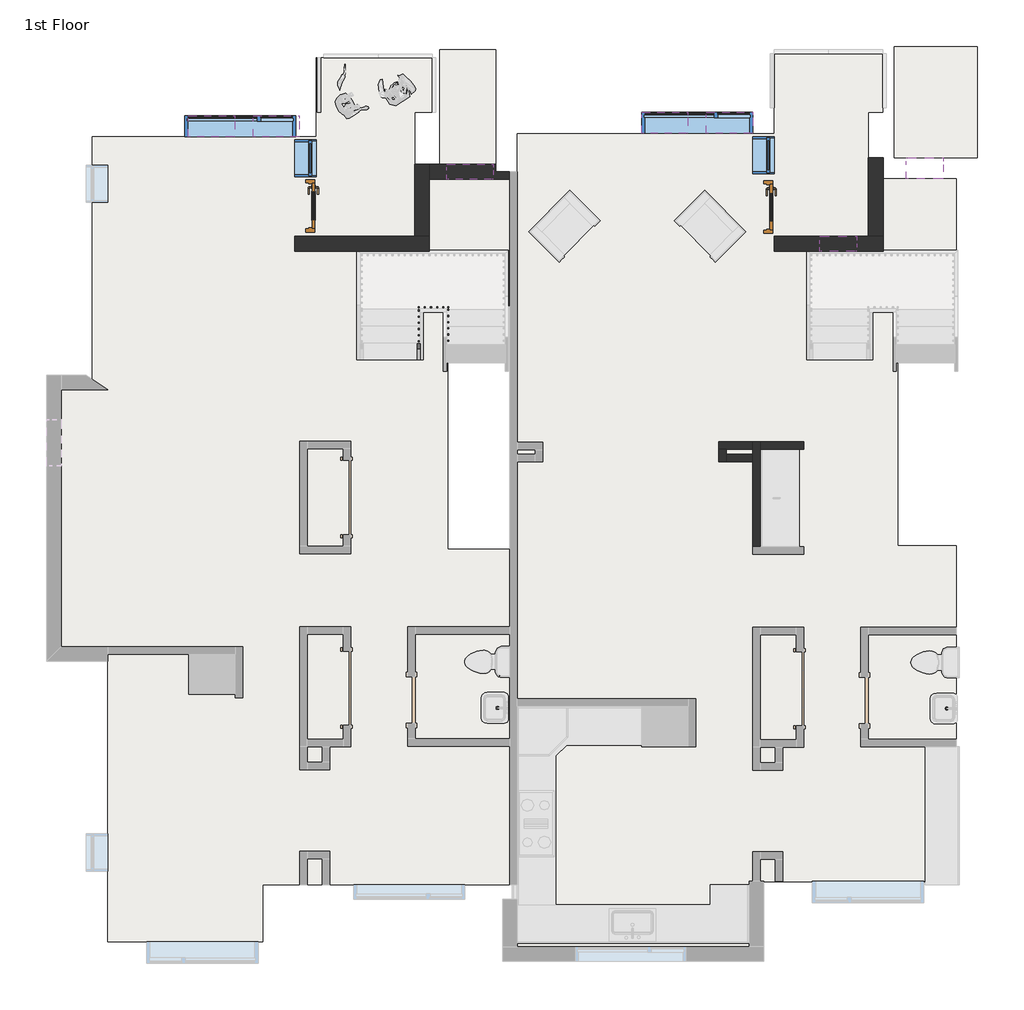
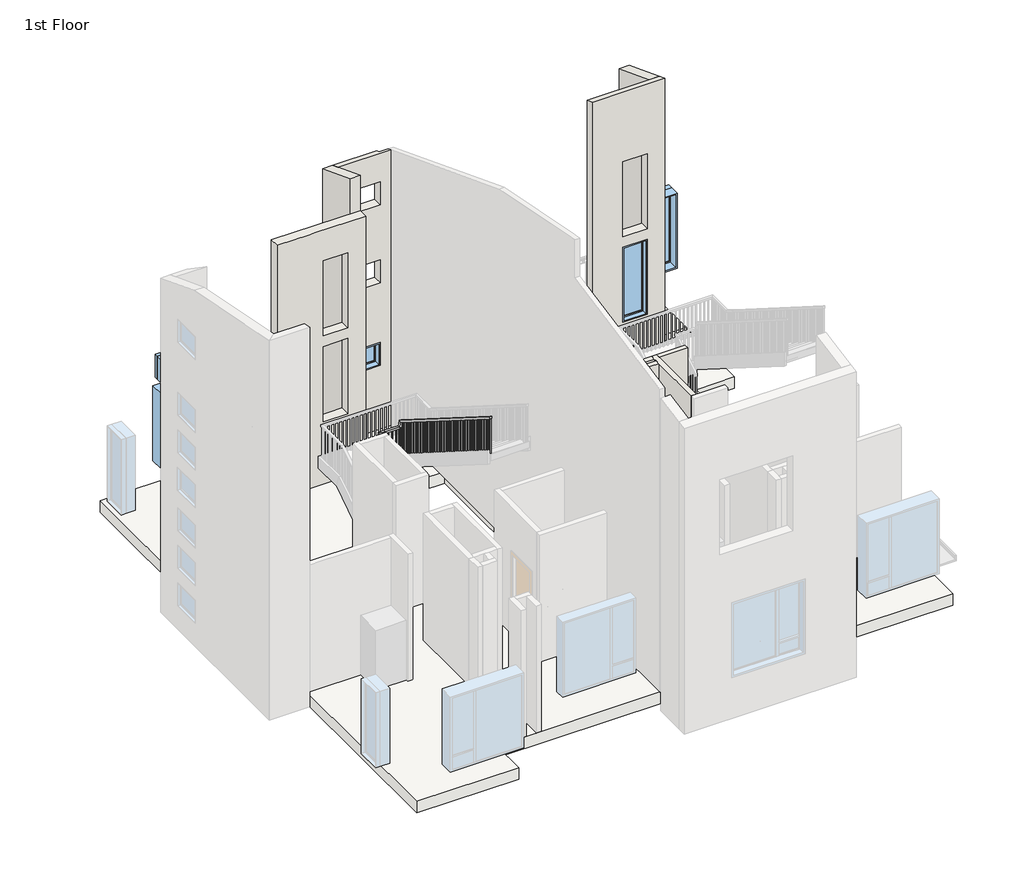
# One storey, part 2 of 6: 11 windows, 10 walls, 2 doors, 2 roofs, 1 railing, 1 slab.
"""IFC4 building model written with IfcOpenShell, lengths in millimetres."""

from ifc_helpers import new_model, si_unit, frame, origin, origin_with_axes, place, context, project, spatial, polyline, outline, extrude, faceted_brep, transform, mapped, element, save
from components import door_00adfaa7, window_8bf192ed, window_b6feeaa8, window_2f0d178e, window_b1c1038b, window_8c170f25, window_03925a3a, window_7b40078c

model = new_model("IFC4")

# Units and contexts
model_context = context("Model", 3, world=origin())
ifc_project = project(units=[si_unit("LENGTHUNIT", "METRE", prefix="MILLI")], contexts=[model_context])

# Site, building, storey
site = spatial("IfcSite", under=ifc_project)
building = spatial("IfcBuilding", under=site)
storey = spatial("IfcBuildingStorey", under=building, Name="1st Floor", Elevation=0.0)

# Doors
placement = place(None, origin())
door_shape = door_00adfaa7(model_context)
element("IfcDoor", 1, ObjectType="Door-Passage-Single-Full_Lite : 30\" x 84\"", at=placement, inside=storey, context=model_context, shape_type="MappedRepresentation", body=[
    mapped(door_shape, transform((2467.5053219, 5235.7563085, 0.0), x_axis=(0.0, -1.0, 0.0), y_axis=(1.0, 0.0, 0.0), z_axis=(0.0, 0.0, 1.0))),
])
element("IfcDoor", 2, ObjectType="Door-Passage-Single-Full_Lite : 30\" x 84\"", at=placement, inside=storey, context=model_context, shape_type="MappedRepresentation", body=[
    mapped(door_shape, transform((-5065.5821781, 5257.9813085, 0.0), x_axis=(0.0, -1.0, 0.0), y_axis=(1.0, 0.0, 0.0), z_axis=(0.0, 0.0, 1.0))),
])

# Railing
element("IfcRailing", 3, ObjectType="Handrail - Rectangular", at=placement, inside=storey, context=model_context, shape_type="SolidModel", body=[
    faceted_brep([(-3224.3663287, 2721.6563085, 1090.8631579), (-3224.3663287, 2721.6563085, 1030.7795781), (-3173.5663287, 2721.6563085, 1030.7795781), (-3173.5663287, 2721.6563085, 1090.8631579), (-3224.3663287, 3483.6563085, 1572.1263158), (-3224.3663287, 3534.4563085, 1544.1269465), (-3173.5663287, 3534.4563085, 1544.1269465), (-3173.5663287, 3483.6563085, 1572.1263158), (-3224.3663287, 3483.6563085, 1620.2526316), (-3224.3663287, 3534.4563085, 1569.4526316), (-3173.5663287, 3534.4563085, 1569.4526316), (-3173.5663287, 3483.6563085, 1620.2526316), (-3224.3663287, 3610.6563085, 1620.2526316), (-3224.3663287, 3610.6563085, 1569.4526316), (-3173.5663287, 3559.8563085, 1569.4526316), (-3173.5663287, 3559.8563085, 1620.2526316), (-3097.3663287, 3610.6563085, 1620.2526316), (-3097.3663287, 3610.6563085, 1569.4526316), (-3097.3663287, 3559.8563085, 1569.4526316), (-3097.3663287, 3559.8563085, 1620.2526316), (-2688.9571781, 3610.6563085, 1620.2526316), (-2688.9571781, 3559.8563085, 1620.2526316), (-2688.9571781, 3559.8563085, 1569.4526316), (-2688.9571781, 3610.6563085, 1569.4526316)], [[[0, 1, 2, 3]], [[1, 0, 4, 5]], [[2, 1, 5, 6]], [[3, 2, 6, 7]], [[0, 3, 7, 4]], [[5, 4, 8, 9]], [[6, 5, 9, 10]], [[7, 6, 10, 11]], [[4, 7, 11, 8]], [[9, 8, 12, 13]], [[10, 9, 13, 14]], [[11, 10, 14, 15]], [[8, 11, 15, 12]], [[13, 12, 16, 17]], [[14, 13, 17, 18]], [[15, 14, 18, 19]], [[12, 15, 19, 16]], [[20, 21, 22, 23]], [[17, 16, 20, 23]], [[18, 17, 23, 22]], [[19, 18, 22, 21]], [[16, 19, 21, 20]]]),
    faceted_brep([(-2688.9571781, 3585.2563085, 1620.2526316), (-2688.9571781, 3535.6297104, 1609.3971833), (-2739.7571781, 3535.6297104, 1609.3971833), (-2739.7571781, 3585.2563085, 1620.2526316), (-2688.9571781, 3546.6563085, 1796.7157895), (-2688.9571781, 3501.5690485, 1765.1083739), (-2739.7571781, 3501.5690485, 1765.1083739), (-2739.7571781, 3546.6563085, 1796.7157895), (-2688.9571781, -364.9436915, 4267.2), (-2739.7571781, -364.9436915, 4267.2), (-2739.7571781, -364.9436915, 4207.1164202), (-2688.9571781, -364.9436915, 4207.1164202)], [[[0, 1, 2, 3]], [[1, 0, 4, 5]], [[2, 1, 5, 6]], [[3, 2, 6, 7]], [[0, 3, 7, 4]], [[8, 9, 10, 11]], [[5, 4, 8, 11]], [[6, 5, 11, 10]], [[7, 6, 10, 9]], [[4, 7, 9, 8]]]),
    extrude(outline(polyline([(-323.6686915, 4181.0479991), (-304.6186915, 4169.0164202), (-304.6186915, 3176.3368421), (-323.6686915, 3176.3368421), (-323.6686915, 4181.0479991)])), frame((-2723.8821781, 0.0, 0.0), z_axis=(1.0, 0.0, 0.0), x_axis=(0.0, 1.0, 0.0)), (0.0, 0.0, 1.0), 19.05),
    extrude(outline(polyline([(-222.0686915, 4116.8795781), (-203.0186915, 4104.8479991), (-203.0186915, 3176.3368421), (-222.0686915, 3176.3368421), (-222.0686915, 4116.8795781)])), frame((-2723.8821781, 0.0, 0.0), z_axis=(1.0, 0.0, 0.0), x_axis=(0.0, 1.0, 0.0)), (0.0, 0.0, 1.0), 19.05),
    extrude(outline(polyline([(-120.4686915, 4052.711157), (-101.4186915, 4040.6795781), (-101.4186915, 3176.3368421), (-120.4686915, 3176.3368421), (-120.4686915, 4052.711157)])), frame((-2723.8821781, 0.0, 0.0), z_axis=(1.0, 0.0, 0.0), x_axis=(0.0, 1.0, 0.0)), (0.0, 0.0, 1.0), 19.05),
    extrude(outline(polyline([(-18.8686915, 3988.542736), (0.1813085, 3976.511157), (0.1813085, 2999.8736842), (-18.8686915, 2999.8736842), (-18.8686915, 3988.542736)])), frame((-2723.8821781, 0.0, 0.0), z_axis=(1.0, 0.0, 0.0), x_axis=(0.0, 1.0, 0.0)), (0.0, 0.0, 1.0), 19.05),
    extrude(outline(polyline([(82.7313085, 3924.3743149), (101.7813085, 3912.342736), (101.7813085, 2999.8736842), (82.7313085, 2999.8736842), (82.7313085, 3924.3743149)])), frame((-2723.8821781, 0.0, 0.0), z_axis=(1.0, 0.0, 0.0), x_axis=(0.0, 1.0, 0.0)), (0.0, 0.0, 1.0), 19.05),
    extrude(outline(polyline([(184.3313085, 3860.2058939), (203.3813085, 3848.1743149), (203.3813085, 2999.8736842), (184.3313085, 2999.8736842), (184.3313085, 3860.2058939)])), frame((-2723.8821781, 0.0, 0.0), z_axis=(1.0, 0.0, 0.0), x_axis=(0.0, 1.0, 0.0)), (0.0, 0.0, 1.0), 19.05),
    extrude(outline(polyline([(285.9313085, 3796.0374728), (304.9813085, 3784.0058939), (304.9813085, 2823.4105263), (285.9313085, 2823.4105263), (285.9313085, 3796.0374728)])), frame((-2723.8821781, 0.0, 0.0), z_axis=(1.0, 0.0, 0.0), x_axis=(0.0, 1.0, 0.0)), (0.0, 0.0, 1.0), 19.05),
    extrude(outline(polyline([(387.5313085, 3731.8690517), (406.5813085, 3719.8374728), (406.5813085, 2823.4105263), (387.5313085, 2823.4105263), (387.5313085, 3731.8690517)])), frame((-2723.8821781, 0.0, 0.0), z_axis=(1.0, 0.0, 0.0), x_axis=(0.0, 1.0, 0.0)), (0.0, 0.0, 1.0), 19.05),
    extrude(outline(polyline([(489.1313085, 3667.7006307), (508.1813085, 3655.6690517), (508.1813085, 2646.9473684), (489.1313085, 2646.9473684), (489.1313085, 3667.7006307)])), frame((-2723.8821781, 0.0, 0.0), z_axis=(1.0, 0.0, 0.0), x_axis=(0.0, 1.0, 0.0)), (0.0, 0.0, 1.0), 19.05),
    extrude(outline(polyline([(590.7313085, 3603.5322096), (609.7813085, 3591.5006307), (609.7813085, 2646.9473684), (590.7313085, 2646.9473684), (590.7313085, 3603.5322096)])), frame((-2723.8821781, 0.0, 0.0), z_axis=(1.0, 0.0, 0.0), x_axis=(0.0, 1.0, 0.0)), (0.0, 0.0, 1.0), 19.05),
    extrude(outline(polyline([(692.3313085, 3539.3637886), (711.3813085, 3527.3322096), (711.3813085, 2646.9473684), (692.3313085, 2646.9473684), (692.3313085, 3539.3637886)])), frame((-2723.8821781, 0.0, 0.0), z_axis=(1.0, 0.0, 0.0), x_axis=(0.0, 1.0, 0.0)), (0.0, 0.0, 1.0), 19.05),
    extrude(outline(polyline([(793.9313085, 3475.1953675), (812.9813085, 3463.1637886), (812.9813085, 2470.4842105), (793.9313085, 2470.4842105), (793.9313085, 3475.1953675)])), frame((-2723.8821781, 0.0, 0.0), z_axis=(1.0, 0.0, 0.0), x_axis=(0.0, 1.0, 0.0)), (0.0, 0.0, 1.0), 19.05),
    extrude(outline(polyline([(895.5313085, 3411.0269465), (914.5813085, 3398.9953675), (914.5813085, 2470.4842105), (895.5313085, 2470.4842105), (895.5313085, 3411.0269465)])), frame((-2723.8821781, 0.0, 0.0), z_axis=(1.0, 0.0, 0.0), x_axis=(0.0, 1.0, 0.0)), (0.0, 0.0, 1.0), 19.05),
    extrude(outline(polyline([(997.1313085, 3346.8585254), (1016.1813085, 3334.8269465), (1016.1813085, 2470.4842105), (997.1313085, 2470.4842105), (997.1313085, 3346.8585254)])), frame((-2723.8821781, 0.0, 0.0), z_axis=(1.0, 0.0, 0.0), x_axis=(0.0, 1.0, 0.0)), (0.0, 0.0, 1.0), 19.05),
    extrude(outline(polyline([(1098.7313085, 3282.6901044), (1117.7813085, 3270.6585254), (1117.7813085, 2294.0210526), (1098.7313085, 2294.0210526), (1098.7313085, 3282.6901044)])), frame((-2723.8821781, 0.0, 0.0), z_axis=(1.0, 0.0, 0.0), x_axis=(0.0, 1.0, 0.0)), (0.0, 0.0, 1.0), 19.05),
    extrude(outline(polyline([(1200.3313085, 3218.5216833), (1219.3813085, 3206.4901044), (1219.3813085, 2294.0210526), (1200.3313085, 2294.0210526), (1200.3313085, 3218.5216833)])), frame((-2723.8821781, 0.0, 0.0), z_axis=(1.0, 0.0, 0.0), x_axis=(0.0, 1.0, 0.0)), (0.0, 0.0, 1.0), 19.05),
    extrude(outline(polyline([(1301.9313085, 3154.3532623), (1320.9813085, 3142.3216833), (1320.9813085, 2294.0210526), (1301.9313085, 2294.0210526), (1301.9313085, 3154.3532623)])), frame((-2723.8821781, 0.0, 0.0), z_axis=(1.0, 0.0, 0.0), x_axis=(0.0, 1.0, 0.0)), (0.0, 0.0, 1.0), 19.05),
    extrude(outline(polyline([(1403.5313085, 3090.1848412), (1422.5813085, 3078.1532623), (1422.5813085, 2117.5578947), (1403.5313085, 2117.5578947), (1403.5313085, 3090.1848412)])), frame((-2723.8821781, 0.0, 0.0), z_axis=(1.0, 0.0, 0.0), x_axis=(0.0, 1.0, 0.0)), (0.0, 0.0, 1.0), 19.05),
    extrude(outline(polyline([(1505.1313085, 3026.0164202), (1524.1813085, 3013.9848412), (1524.1813085, 2117.5578947), (1505.1313085, 2117.5578947), (1505.1313085, 3026.0164202)])), frame((-2723.8821781, 0.0, 0.0), z_axis=(1.0, 0.0, 0.0), x_axis=(0.0, 1.0, 0.0)), (0.0, 0.0, 1.0), 19.05),
    extrude(outline(polyline([(1606.7313085, 2961.8479991), (1625.7813085, 2949.8164202), (1625.7813085, 1941.0947368), (1606.7313085, 1941.0947368), (1606.7313085, 2961.8479991)])), frame((-2723.8821781, 0.0, 0.0), z_axis=(1.0, 0.0, 0.0), x_axis=(0.0, 1.0, 0.0)), (0.0, 0.0, 1.0), 19.05),
    extrude(outline(polyline([(1708.3313085, 2897.6795781), (1727.3813085, 2885.6479991), (1727.3813085, 1941.0947368), (1708.3313085, 1941.0947368), (1708.3313085, 2897.6795781)])), frame((-2723.8821781, 0.0, 0.0), z_axis=(1.0, 0.0, 0.0), x_axis=(0.0, 1.0, 0.0)), (0.0, 0.0, 1.0), 19.05),
    extrude(outline(polyline([(1809.9313085, 2833.511157), (1828.9813085, 2821.4795781), (1828.9813085, 1941.0947368), (1809.9313085, 1941.0947368), (1809.9313085, 2833.511157)])), frame((-2723.8821781, 0.0, 0.0), z_axis=(1.0, 0.0, 0.0), x_axis=(0.0, 1.0, 0.0)), (0.0, 0.0, 1.0), 19.05),
    extrude(outline(polyline([(1911.5313085, 2769.342736), (1930.5813085, 2757.311157), (1930.5813085, 1764.6315789), (1911.5313085, 1764.6315789), (1911.5313085, 2769.342736)])), frame((-2723.8821781, 0.0, 0.0), z_axis=(1.0, 0.0, 0.0), x_axis=(0.0, 1.0, 0.0)), (0.0, 0.0, 1.0), 19.05),
    extrude(outline(polyline([(2013.1313085, 2705.1743149), (2032.1813085, 2693.142736), (2032.1813085, 1764.6315789), (2013.1313085, 1764.6315789), (2013.1313085, 2705.1743149)])), frame((-2723.8821781, 0.0, 0.0), z_axis=(1.0, 0.0, 0.0), x_axis=(0.0, 1.0, 0.0)), (0.0, 0.0, 1.0), 19.05),
    extrude(outline(polyline([(2114.7313085, 2641.0058939), (2133.7813085, 2628.9743149), (2133.7813085, 1764.6315789), (2114.7313085, 1764.6315789), (2114.7313085, 2641.0058939)])), frame((-2723.8821781, 0.0, 0.0), z_axis=(1.0, 0.0, 0.0), x_axis=(0.0, 1.0, 0.0)), (0.0, 0.0, 1.0), 19.05),
    extrude(outline(polyline([(2216.3313085, 2576.8374728), (2235.3813085, 2564.8058939), (2235.3813085, 1588.1684211), (2216.3313085, 1588.1684211), (2216.3313085, 2576.8374728)])), frame((-2723.8821781, 0.0, 0.0), z_axis=(1.0, 0.0, 0.0), x_axis=(0.0, 1.0, 0.0)), (0.0, 0.0, 1.0), 19.05),
    extrude(outline(polyline([(2317.9313085, 2512.6690517), (2336.9813085, 2500.6374728), (2336.9813085, 1588.1684211), (2317.9313085, 1588.1684211), (2317.9313085, 2512.6690517)])), frame((-2723.8821781, 0.0, 0.0), z_axis=(1.0, 0.0, 0.0), x_axis=(0.0, 1.0, 0.0)), (0.0, 0.0, 1.0), 19.05),
    extrude(outline(polyline([(2419.5313085, 2448.5006307), (2438.5813085, 2436.4690517), (2438.5813085, 1588.1684211), (2419.5313085, 1588.1684211), (2419.5313085, 2448.5006307)])), frame((-2723.8821781, 0.0, 0.0), z_axis=(1.0, 0.0, 0.0), x_axis=(0.0, 1.0, 0.0)), (0.0, 0.0, 1.0), 19.05),
    extrude(outline(polyline([(2521.1313085, 2384.3322096), (2540.1813085, 2372.3006307), (2540.1813085, 1411.7052632), (2521.1313085, 1411.7052632), (2521.1313085, 2384.3322096)])), frame((-2723.8821781, 0.0, 0.0), z_axis=(1.0, 0.0, 0.0), x_axis=(0.0, 1.0, 0.0)), (0.0, 0.0, 1.0), 19.05),
    extrude(outline(polyline([(2622.7313085, 2320.1637886), (2641.7813085, 2308.1322096), (2641.7813085, 1411.7052632), (2622.7313085, 1411.7052632), (2622.7313085, 2320.1637886)])), frame((-2723.8821781, 0.0, 0.0), z_axis=(1.0, 0.0, 0.0), x_axis=(0.0, 1.0, 0.0)), (0.0, 0.0, 1.0), 19.05),
    extrude(outline(polyline([(2724.3313085, 2255.9953675), (2743.3813085, 2243.9637886), (2743.3813085, 1235.2421053), (2724.3313085, 1235.2421053), (2724.3313085, 2255.9953675)])), frame((-2723.8821781, 0.0, 0.0), z_axis=(1.0, 0.0, 0.0), x_axis=(0.0, 1.0, 0.0)), (0.0, 0.0, 1.0), 19.05),
    extrude(outline(polyline([(2825.9313085, 2191.8269465), (2844.9813085, 2179.7953675), (2844.9813085, 1235.2421053), (2825.9313085, 1235.2421053), (2825.9313085, 2191.8269465)])), frame((-2723.8821781, 0.0, 0.0), z_axis=(1.0, 0.0, 0.0), x_axis=(0.0, 1.0, 0.0)), (0.0, 0.0, 1.0), 19.05),
    extrude(outline(polyline([(2927.5313085, 2127.6585254), (2946.5813085, 2115.6269465), (2946.5813085, 1235.2421053), (2927.5313085, 1235.2421053), (2927.5313085, 2127.6585254)])), frame((-2723.8821781, 0.0, 0.0), z_axis=(1.0, 0.0, 0.0), x_axis=(0.0, 1.0, 0.0)), (0.0, 0.0, 1.0), 19.05),
    extrude(outline(polyline([(3029.1313085, 2063.4901044), (3048.1813085, 2051.4585254), (3048.1813085, 1058.7789474), (3029.1313085, 1058.7789474), (3029.1313085, 2063.4901044)])), frame((-2723.8821781, 0.0, 0.0), z_axis=(1.0, 0.0, 0.0), x_axis=(0.0, 1.0, 0.0)), (0.0, 0.0, 1.0), 19.05),
    extrude(outline(polyline([(3130.7313085, 1999.3216833), (3149.7813085, 1987.2901044), (3149.7813085, 1058.7789474), (3130.7313085, 1058.7789474), (3130.7313085, 1999.3216833)])), frame((-2723.8821781, 0.0, 0.0), z_axis=(1.0, 0.0, 0.0), x_axis=(0.0, 1.0, 0.0)), (0.0, 0.0, 1.0), 19.05),
    extrude(outline(polyline([(3232.3313085, 1935.1532623), (3251.3813085, 1923.1216833), (3251.3813085, 1058.7789474), (3232.3313085, 1058.7789474), (3232.3313085, 1935.1532623)])), frame((-2723.8821781, 0.0, 0.0), z_axis=(1.0, 0.0, 0.0), x_axis=(0.0, 1.0, 0.0)), (0.0, 0.0, 1.0), 19.05),
    extrude(outline(polyline([(3333.9313085, 1870.9848412), (3352.9813085, 1858.9532623), (3352.9813085, 882.3157895), (3333.9313085, 882.3157895), (3333.9313085, 1870.9848412)])), frame((-2723.8821781, 0.0, 0.0), z_axis=(1.0, 0.0, 0.0), x_axis=(0.0, 1.0, 0.0)), (0.0, 0.0, 1.0), 19.05),
    extrude(outline(polyline([(3435.5313085, 1806.8164202), (3454.5813085, 1794.7848412), (3454.5813085, 882.3157895), (3435.5313085, 882.3157895), (3435.5313085, 1806.8164202)])), frame((-2723.8821781, 0.0, 0.0), z_axis=(1.0, 0.0, 0.0), x_axis=(0.0, 1.0, 0.0)), (0.0, 0.0, 1.0), 19.05),
    extrude(outline(polyline([(-2802.0913287, 3575.7313085), (-2802.0913287, 3594.7813085), (-2783.0413287, 3594.7813085), (-2783.0413287, 3575.7313085), (-2802.0913287, 3575.7313085)])), frame((0.0, 0.0, 705.8526316), z_axis=(0.0, 0.0, 1.0), x_axis=(1.0, 0.0, 0.0)), (0.0, 0.0, 1.0), 863.6),
    extrude(outline(polyline([(-2903.6913287, 3575.7313085), (-2903.6913287, 3594.7813085), (-2884.6413287, 3594.7813085), (-2884.6413287, 3575.7313085), (-2903.6913287, 3575.7313085)])), frame((0.0, 0.0, 705.8526316), z_axis=(0.0, 0.0, 1.0), x_axis=(1.0, 0.0, 0.0)), (0.0, 0.0, 1.0), 863.6),
    extrude(outline(polyline([(-3005.2913287, 3575.7313085), (-3005.2913287, 3594.7813085), (-2986.2413287, 3594.7813085), (-2986.2413287, 3575.7313085), (-3005.2913287, 3575.7313085)])), frame((0.0, 0.0, 705.8526316), z_axis=(0.0, 0.0, 1.0), x_axis=(1.0, 0.0, 0.0)), (0.0, 0.0, 1.0), 863.6),
    extrude(outline(polyline([(-3106.8913287, 3575.7313085), (-3106.8913287, 3594.7813085), (-3087.8413287, 3594.7813085), (-3087.8413287, 3575.7313085), (-3106.8913287, 3575.7313085)])), frame((0.0, 0.0, 705.8526316), z_axis=(0.0, 0.0, 1.0), x_axis=(1.0, 0.0, 0.0)), (0.0, 0.0, 1.0), 863.6),
    extrude(outline(polyline([(-3189.4413287, 3524.9313085), (-3208.4913287, 3524.9313085), (-3208.4913287, 3543.9813085), (-3189.4413287, 3543.9813085), (-3189.4413287, 3524.9313085)])), frame((0.0, 0.0, 529.3894737), z_axis=(0.0, 0.0, 1.0), x_axis=(1.0, 0.0, 0.0)), (0.0, 0.0, 1.0), 1040.0631579),
    extrude(outline(polyline([(3423.3313085, 1473.942736), (3442.3813085, 1485.9743149), (3442.3813085, 529.3894737), (3423.3313085, 529.3894737), (3423.3313085, 1473.942736)])), frame((-3208.4913287, 0.0, 0.0), z_axis=(1.0, 0.0, 0.0), x_axis=(0.0, 1.0, 0.0)), (0.0, 0.0, 1.0), 19.05),
    extrude(outline(polyline([(3321.7313085, 1409.7743149), (3340.7813085, 1421.8058939), (3340.7813085, 529.3894737), (3321.7313085, 529.3894737), (3321.7313085, 1409.7743149)])), frame((-3208.4913287, 0.0, 0.0), z_axis=(1.0, 0.0, 0.0), x_axis=(0.0, 1.0, 0.0)), (0.0, 0.0, 1.0), 19.05),
    extrude(outline(polyline([(3220.1313085, 1345.6058939), (3239.1813085, 1357.6374728), (3239.1813085, 352.9263158), (3220.1313085, 352.9263158), (3220.1313085, 1345.6058939)])), frame((-3208.4913287, 0.0, 0.0), z_axis=(1.0, 0.0, 0.0), x_axis=(0.0, 1.0, 0.0)), (0.0, 0.0, 1.0), 19.05),
    extrude(outline(polyline([(3118.5313085, 1281.4374728), (3137.5813085, 1293.4690517), (3137.5813085, 352.9263158), (3118.5313085, 352.9263158), (3118.5313085, 1281.4374728)])), frame((-3208.4913287, 0.0, 0.0), z_axis=(1.0, 0.0, 0.0), x_axis=(0.0, 1.0, 0.0)), (0.0, 0.0, 1.0), 19.05),
    extrude(outline(polyline([(3016.9313085, 1217.2690517), (3035.9813085, 1229.3006307), (3035.9813085, 352.9263158), (3016.9313085, 352.9263158), (3016.9313085, 1217.2690517)])), frame((-3208.4913287, 0.0, 0.0), z_axis=(1.0, 0.0, 0.0), x_axis=(0.0, 1.0, 0.0)), (0.0, 0.0, 1.0), 19.05),
    extrude(outline(polyline([(2915.3313085, 1153.1006307), (2934.3813085, 1165.1322096), (2934.3813085, 176.4631579), (2915.3313085, 176.4631579), (2915.3313085, 1153.1006307)])), frame((-3208.4913287, 0.0, 0.0), z_axis=(1.0, 0.0, 0.0), x_axis=(0.0, 1.0, 0.0)), (0.0, 0.0, 1.0), 19.05),
    extrude(outline(polyline([(2813.7313085, 1088.9322096), (2832.7813085, 1100.9637886), (2832.7813085, 176.4631579), (2813.7313085, 176.4631579), (2813.7313085, 1088.9322096)])), frame((-3208.4913287, 0.0, 0.0), z_axis=(1.0, 0.0, 0.0), x_axis=(0.0, 1.0, 0.0)), (0.0, 0.0, 1.0), 19.05),
    extrude(outline(polyline([(3537.1313085, 1602.5325007), (3556.1813085, 1515.4438178), (3556.1813085, 705.8526316), (3537.1313085, 705.8526316), (3537.1313085, 1602.5325007)])), frame((-2723.8821781, 0.0, 0.0), z_axis=(1.0, 0.0, 0.0), x_axis=(0.0, 1.0, 0.0)), (0.0, 0.0, 1.0), 19.05),
    extrude(outline(polyline([(-2723.8821781, 3575.7313085), (-2723.8821781, 3594.7813085), (-2704.8321781, 3594.7813085), (-2704.8321781, 3575.7313085), (-2723.8821781, 3575.7313085)])), frame((0.0, 0.0, 705.8526316), z_axis=(0.0, 0.0, 1.0), x_axis=(1.0, 0.0, 0.0)), (0.0, 0.0, 1.0), 863.6),
    extrude(outline(polyline([(-3189.4413287, 3575.7313085), (-3208.4913287, 3575.7313085), (-3208.4913287, 3594.7813085), (-3189.4413287, 3594.7813085), (-3189.4413287, 3575.7313085)])), frame((0.0, 0.0, 705.8526316), z_axis=(0.0, 0.0, 1.0), x_axis=(1.0, 0.0, 0.0)), (0.0, 0.0, 1.0), 863.6),
    extrude(outline(polyline([(-364.9436915, 4207.1164202), (-345.8936915, 4195.0848412), (-345.8936915, 3176.3368421), (-364.9436915, 3176.3368421), (-364.9436915, 4207.1164202)])), frame((-2723.8821781, 0.0, 0.0), z_axis=(1.0, 0.0, 0.0), x_axis=(0.0, 1.0, 0.0)), (0.0, 0.0, 1.0), 19.05),
    extrude(outline(polyline([(2721.6563085, 1030.7795781), (2740.7063085, 1042.811157), (2740.7063085, 176.4631579), (2721.6563085, 176.4631579), (2721.6563085, 1030.7795781)])), frame((-3208.4913287, 0.0, 0.0), z_axis=(1.0, 0.0, 0.0), x_axis=(0.0, 1.0, 0.0)), (0.0, 0.0, 1.0), 19.05),
])

# Roofs
element("IfcRoof", 4, ObjectType="Generic - 12\"", at=placement, inside=storey, context=model_context, shape_type="SweptSolid", body=[
    extrude(outline(polyline([(5995.0780789, 7877.8813085), (5995.0780789, 6051.0812973), (4622.3681157, 6051.0812973), (4622.3681157, 7877.8813085), (5995.0780789, 7877.8813085)])), frame((0.0, 0.0, -762.0), z_axis=(0.0, 0.0, 1.0), x_axis=(1.0, 0.0, 0.0)), (0.0, 0.0, 1.0), 304.8),
])
element("IfcRoof", 5, ObjectType="Generic - 12\"", at=placement, inside=storey, context=model_context, shape_type="SweptSolid", body=[
    extrude(outline(polyline([(-1928.5446781, 7822.3188085), (-1928.5446781, 5938.3687973), (-2852.9735601, 5938.3687973), (-2852.9735601, 7822.3188085), (-1928.5446781, 7822.3188085)])), frame((0.0, 0.0, -762.0), z_axis=(0.0, 0.0, 1.0), x_axis=(1.0, 0.0, 0.0)), (0.0, 0.0, 1.0), 304.8),
])

# Slab
element("IfcSlab", 6, ObjectType="Generic - 12\"", at=placement, inside=storey, context=model_context, shape_type="Brep", body=[
    faceted_brep([(-4883.0196781, 6389.4938085, -304.8), (-4883.0196781, 7689.6125585, -304.8), (-2974.5886971, 7689.6125585, -304.8), (-2974.5886971, 6797.6813085, -304.8), (-3266.2735601, 6797.6813085, -304.8), (-3266.2735601, 5697.0687973, -304.8), (-1576.1196781, 5697.0687973, -304.8), (-1576.1196781, 6447.0188085, -304.8), (2650.0678219, 6447.0188085, -304.8), (2650.0678219, 7819.5812973, -304.8), (4438.9264399, 7819.5812973, -304.8), (4438.9264399, 6797.6813085, -304.8), (4200.8014399, 6797.6813085, -304.8), (4200.8014399, 5698.6562973, -304.8), (5642.6530789, 5698.6562973, -304.8), (5642.6530789, 3572.0563085, -304.8), (4682.2155789, 3572.0563085, -304.8), (4682.2155789, -337.0811915, -304.8), (5642.6530789, -337.0811915, -304.8), (5642.6530789, -5861.4671456, -304.8), (2236.5178219, -5861.4671456, -304.8), (2236.5178219, -6933.9311915, -304.8), (-1576.1196781, -6933.9311915, -304.8), (-1576.1196781, -5913.8546456, -304.8), (-5765.8946781, -5913.8546456, -304.8), (-5765.8946781, -6854.1186915, -304.8), (-8312.2446781, -6854.1186915, -304.8), (-8312.2446781, -1997.5436915, -304.8), (-8664.6696781, -1997.5436915, -304.8), (-9080.4946781, -1997.5436915, -304.8), (-9080.4946781, 2230.7574206, -304.8), (-8664.6696781, 2230.7574206, -304.8), (-8566.5821781, 2230.7574206, -304.8), (-8566.5821781, 6389.4938085, -304.8), (-8312.2446781, 6389.4938085, -304.8), (-2715.9446781, -384.9686915, -304.8), (-1576.1196781, -384.9686915, -304.8), (-1576.1196781, 3603.8062973, -304.8), (-2715.9446781, 3603.8062973, -304.8), (-4883.0196781, 6389.4938085, 0.0), (-8312.2446781, 6389.4938085, 0.0), (-8566.5821781, 6389.4938085, 0.0), (-8566.5821781, 2404.8984116, 0.0), (-8566.5821781, 2230.7574206, 0.0), (-9080.4946781, 2230.7574206, 0.0), (-9080.4946781, -1997.5436915, 0.0), (-8312.2446781, -1997.5436915, 0.0), (-8312.2446781, -6854.1186915, 0.0), (-5765.8946781, -6854.1186915, 0.0), (-5765.8946781, -5913.8546456, 0.0), (-1576.1196781, -5913.8546456, 0.0), (-1576.1196781, -6933.9311915, 0.0), (2236.5178219, -6933.9311915, 0.0), (2236.5178219, -5861.4671456, 0.0), (5642.6530789, -5861.4671456, 0.0), (5642.6530789, -337.0811915, 0.0), (4682.2155789, -337.0811915, 0.0), (4682.2155789, 3572.0563085, 0.0), (5642.6530789, 3572.0563085, 0.0), (5642.6530789, 5698.6562973, 0.0), (4200.8014399, 5698.6562973, 0.0), (4200.8014399, 6797.6813085, 0.0), (4438.9264399, 6797.6813085, 0.0), (4438.9264399, 7819.5812973, 0.0), (2650.0678219, 7819.5812973, 0.0), (2650.0678219, 6447.0188085, 0.0), (-1576.1196781, 6447.0188085, 0.0), (-1576.1196781, 5697.0687973, 0.0), (-3266.2735601, 5697.0687973, 0.0), (-3266.2735601, 6797.6813085, 0.0), (-2974.5886971, 6797.6813085, 0.0), (-2974.5886971, 7689.6125585, 0.0), (-4883.0196781, 7689.6125585, 0.0), (-2715.9446781, -384.9686915, 0.0), (-2715.9446781, 3603.8062973, 0.0), (-1576.1196781, 3603.8062973, 0.0), (-1576.1196781, -384.9686915, 0.0), (-8312.2446781, -1997.5436915, -28.575), (-8566.5821781, 2230.7574206, -28.575)], [[[0, 1, 2, 3, 4, 5, 6, 7, 8, 9, 10, 11, 12, 13, 14, 15, 16, 17, 18, 19, 20, 21, 22, 23, 24, 25, 26, 27, 28, 29, 30, 31, 32, 33, 34], [35, 36, 37, 38]], [[39, 40, 41, 42, 43, 44, 45, 46, 47, 48, 49, 50, 51, 52, 53, 54, 55, 56, 57, 58, 59, 60, 61, 62, 63, 64, 65, 66, 67, 68, 69, 70, 71, 72], [73, 74, 75, 76]], [[1, 0, 39, 72]], [[2, 1, 72, 71]], [[3, 2, 71, 70]], [[4, 3, 70, 69]], [[5, 4, 69, 68]], [[6, 5, 68, 67]], [[7, 6, 67, 66]], [[8, 7, 66, 65]], [[9, 8, 65, 64]], [[10, 9, 64, 63]], [[11, 10, 63, 62]], [[12, 11, 62, 61]], [[13, 12, 61, 60]], [[14, 13, 60, 59]], [[15, 14, 59, 58]], [[16, 15, 58, 57]], [[17, 16, 57, 56]], [[18, 17, 56, 55]], [[19, 18, 55, 54]], [[20, 19, 54, 53]], [[21, 20, 53, 52]], [[22, 21, 52, 51]], [[23, 22, 51, 50]], [[24, 23, 50, 49]], [[25, 24, 49, 48]], [[26, 25, 48, 47]], [[27, 26, 47, 46, 77]], [[29, 28, 27, 77, 46, 45]], [[30, 29, 45, 44]], [[32, 31, 30, 44, 43, 78]], [[33, 32, 78, 43, 42, 41]], [[0, 34, 33, 41, 40, 39]], [[36, 35, 73, 76]], [[37, 36, 76, 75]], [[38, 37, 75, 74]], [[35, 38, 74, 73]]]),
])

# Walls
element("IfcWall", 7, ObjectType="Exterior - Stucco", at=placement, inside=storey, context=model_context, shape_type="Brep", body=[
    faceted_brep([(-5235.4446781, 4511.8563085, 0.0), (-3024.9735601, 4511.8563085, 0.0), (-3024.9735601, 4511.8563085, 6705.6), (-4294.9719211, 4511.8563085, 6705.6), (-4418.7969211, 4511.8563085, 6705.6), (-5235.4446781, 4511.8563085, 6705.6), (-3471.0610601, 4511.8563085, 3632.2), (-3471.0610601, 4511.8563085, 1651.0), (-4080.6610601, 4511.8563085, 1651.0), (-4080.6610601, 4511.8563085, 3632.2), (-3471.0610601, 4511.8563085, 5892.8), (-3471.0610601, 4511.8563085, 3911.6), (-4080.6610601, 4511.8563085, 3911.6), (-4080.6610601, 4511.8563085, 5892.8), (-3024.9735601, 4753.1563085, 0.0), (-3266.2735601, 4753.1563085, 0.0), (-5235.4446781, 4753.1563085, 0.0), (-5235.4446781, 4753.1563085, 6705.6), (-3024.9735601, 4753.1563085, 6705.6), (-3471.0610601, 4753.1563085, 1651.0), (-3471.0610601, 4753.1563085, 3632.2), (-4080.6610601, 4753.1563085, 3632.2), (-4080.6610601, 4753.1563085, 1651.0), (-3471.0610601, 4753.1563085, 5892.8), (-4080.6610601, 4753.1563085, 5892.8), (-4080.6610601, 4753.1563085, 3911.6), (-3471.0610601, 4753.1563085, 3911.6)], [[[0, 1, 2, 3, 4, 5], [6, 7, 8, 9], [10, 11, 12, 13]], [[14, 15, 16, 17, 18], [19, 20, 21, 22], [23, 24, 25, 26]], [[1, 0, 16, 15, 14]], [[5, 4, 3, 2, 18, 17]], [[2, 1, 14, 18]], [[0, 5, 17, 16]], [[6, 20, 19, 7]], [[7, 19, 22, 8]], [[8, 22, 21, 9]], [[20, 6, 9, 21]], [[11, 10, 23, 26]], [[12, 11, 26, 25]], [[13, 12, 25, 24]], [[10, 13, 24, 23]]]),
])
element("IfcWall", 8, ObjectType="Exterior - Stucco", at=placement, inside=storey, context=model_context, shape_type="Brep", body=[
    faceted_brep([(-3024.9735601, 4753.1563085, 0.0), (-3024.9735601, 5697.0687973, 0.0), (-3024.9735601, 5938.3687973, 0.0), (-3024.9735601, 5938.3687973, 7177.3038799), (-3024.9735601, 5697.0687973, 7270.1976451), (-3024.9735601, 4753.1563085, 7633.5776082), (-3024.9735601, 4753.1563085, 6705.6), (-3266.2735601, 4753.1563085, 0.0), (-3266.2735601, 4753.1563085, 7633.5776082), (-3266.2735601, 5938.3687973, 7177.3038799), (-3266.2735601, 5938.3687973, 0.0)], [[[0, 1, 2, 3, 4, 5, 6]], [[7, 8, 9, 10]], [[2, 1, 0, 7, 10]], [[3, 2, 10, 9]], [[0, 6, 5, 8, 7]], [[5, 4, 3, 9, 8]]]),
])
element("IfcWall", 9, ObjectType="Exterior - Stucco", at=placement, inside=storey, context=model_context, shape_type="Brep", body=[
    faceted_brep([(-3024.9735601, 5697.0687973, 0.0), (-1699.9446781, 5697.0687973, 0.0), (-1699.9446781, 5697.0687973, 7270.1976451), (-3024.9735601, 5697.0687973, 7270.1976451), (-1974.5821781, 5697.0687973, 6527.8), (-1974.5821781, 5697.0687973, 5918.2), (-2736.5821781, 5697.0687973, 5918.2), (-2736.5821781, 5697.0687973, 6527.8), (-1974.5821781, 5697.0687973, 4470.4), (-1974.5821781, 5697.0687973, 3860.8), (-2736.5821781, 5697.0687973, 3860.8), (-2736.5821781, 5697.0687973, 4470.4), (-1974.5821781, 5697.0687973, 2286.0), (-1974.5821781, 5697.0687973, 1676.4), (-2736.5821781, 5697.0687973, 1676.4), (-2736.5821781, 5697.0687973, 2286.0), (-1928.5446781, 5938.3687973, 0.0), (-3024.9735601, 5938.3687973, 0.0), (-3024.9735601, 5938.3687973, 7177.3038799), (-1928.5446781, 5938.3687973, 7177.3038799), (-1974.5821781, 5938.3687973, 5918.2), (-1974.5821781, 5938.3687973, 6527.8), (-2736.5821781, 5938.3687973, 6527.8), (-2736.5821781, 5938.3687973, 5918.2), (-1974.5821781, 5938.3687973, 4470.4), (-2736.5821781, 5938.3687973, 4470.4), (-2736.5821781, 5938.3687973, 3860.8), (-1974.5821781, 5938.3687973, 3860.8), (-1974.5821781, 5938.3687973, 2286.0), (-2736.5821781, 5938.3687973, 2286.0), (-2736.5821781, 5938.3687973, 1676.4), (-1974.5821781, 5938.3687973, 1676.4), (-1928.5446781, 5817.7187973, 0.0), (-1699.9446781, 5817.7187973, 0.0), (-1699.9446781, 5817.7187973, 7223.7507625), (-1928.5446781, 5817.7187973, 7223.7507625)], [[[0, 1, 2, 3], [4, 5, 6, 7], [8, 9, 10, 11], [12, 13, 14, 15]], [[16, 17, 18, 19], [20, 21, 22, 23], [24, 25, 26, 27], [28, 29, 30, 31]], [[1, 0, 17, 16, 32, 33]], [[0, 3, 18, 17]], [[2, 1, 33, 34]], [[33, 32, 35, 34]], [[16, 19, 35, 32]], [[3, 2, 34, 35, 19, 18]], [[4, 21, 20, 5]], [[5, 20, 23, 6]], [[6, 23, 22, 7]], [[21, 4, 7, 22]], [[9, 8, 24, 27]], [[10, 9, 27, 26]], [[11, 10, 26, 25]], [[8, 11, 25, 24]], [[13, 12, 28, 31]], [[14, 13, 31, 30]], [[15, 14, 30, 29]], [[12, 15, 29, 28]]]),
])
element("IfcWall", 10, ObjectType="Exterior - Stucco", at=placement, inside=storey, context=model_context, shape_type="Brep", body=[
    faceted_brep([(2650.0678219, 4511.8563085, 0.0), (4442.1014399, 4511.8563085, 0.0), (4442.1014399, 4511.8563085, 7726.4713734), (2650.0678219, 4511.8563085, 7726.4713734), (4007.1264399, 4511.8563085, 5892.8), (4007.1264399, 4511.8563085, 3911.6), (3397.5264399, 4511.8563085, 3911.6), (3397.5264399, 4511.8563085, 5892.8), (4007.1264399, 4511.8563085, 3632.2), (4007.1264399, 4511.8563085, 1651.0), (3397.5264399, 4511.8563085, 1651.0), (3397.5264399, 4511.8563085, 3632.2), (2650.0678219, 4753.1563085, 0.0), (2650.0678219, 4753.1563085, 7633.5776082), (4200.8014399, 4753.1563085, 7633.5776082), (4442.1014399, 4753.1563085, 7633.5776082), (4442.1014399, 4753.1563085, 0.0), (4200.8014399, 4753.1563085, 0.0), (4007.1264399, 4753.1563085, 5892.8), (3397.5264399, 4753.1563085, 5892.8), (3397.5264399, 4753.1563085, 3911.6), (4007.1264399, 4753.1563085, 3911.6), (4007.1264399, 4753.1563085, 3632.2), (3397.5264399, 4753.1563085, 3632.2), (3397.5264399, 4753.1563085, 1651.0), (4007.1264399, 4753.1563085, 1651.0)], [[[0, 1, 2, 3], [4, 5, 6, 7], [8, 9, 10, 11]], [[12, 13, 14, 15, 16, 17], [18, 19, 20, 21], [22, 23, 24, 25]], [[1, 0, 12, 17, 16]], [[2, 1, 16, 15]], [[0, 3, 13, 12]], [[3, 2, 15, 14, 13]], [[5, 4, 18, 21]], [[6, 5, 21, 20]], [[7, 6, 20, 19]], [[4, 7, 19, 18]], [[9, 8, 22, 25]], [[10, 9, 25, 24]], [[11, 10, 24, 23]], [[8, 11, 23, 22]]]),
])
element("IfcWall", 11, ObjectType="Exterior - Stucco", at=placement, inside=storey, context=model_context, shape_type="Brep", body=[
    faceted_brep([(4442.1014399, 4753.1563085, 0.0), (4442.1014399, 6051.0812973, 0.0), (4442.1014399, 6051.0812973, 7133.9127133), (4442.1014399, 5698.6562973, 7269.5865019), (4442.1014399, 4753.1563085, 7633.5776082), (4200.8014399, 4753.1563085, 0.0), (4200.8014399, 4753.1563085, 7633.5776082), (4200.8014399, 6051.0812973, 7133.9127133), (4200.8014399, 6051.0812973, 0.0)], [[[0, 1, 2, 3, 4]], [[5, 6, 7, 8]], [[1, 0, 5, 8]], [[2, 1, 8, 7]], [[0, 4, 6, 5]], [[4, 3, 2, 7, 6]]]),
])
element("IfcWall", 12, ObjectType="Interior - 4 7/8\" Partition (1-hr)", at=placement, inside=storey, context=model_context, shape_type="Brep", body=[
    faceted_brep([(2300.7803219, -352.8186915, 0.0), (2300.7803219, -352.8186915, 3048.0), (2300.7803219, 1048.9949206, 3048.0), (2300.7803219, 1172.8199206, 3048.0), (2300.7803219, 1248.9949206, 3048.0), (2300.7803219, 1372.8199206, 3048.0), (2300.7803219, 1372.8199206, 0.0), (2300.7803219, 1248.9949206, 0.0), (2300.7803219, 1172.8199206, 0.0), (2300.7803219, 1048.9949206, 0.0), (2424.6053219, -352.8186915, 0.0), (2424.6053219, 1248.9949206, 0.0), (2424.6053219, 1372.8199206, 0.0), (2424.6053219, 1372.8199206, 3048.0), (2424.6053219, 1248.9949206, 3048.0), (2424.6053219, -352.8186915, 3048.0)], [[[0, 1, 2, 3, 4, 5, 6, 7, 8, 9]], [[10, 11, 12, 13, 14, 15]], [[12, 11, 10, 0, 9, 8, 7, 6]], [[10, 15, 1, 0]], [[13, 12, 6, 5]], [[15, 14, 13, 5, 4, 3, 2, 1]]]),
])
element("IfcWall", 13, ObjectType="Interior - 4 7/8\" Partition (1-hr)", at=placement, inside=storey, context=model_context, shape_type="SweptSolid", body=[
    extrude(outline(polyline([(3133.8655789, 1248.9949206), (2424.6053219, 1248.9949206), (2424.6053219, 1372.8199206), (3133.8655789, 1372.8199206), (3133.8655789, 1248.9949206)])), origin_with_axes(), (0.0, 0.0, 1.0), 3048.0),
])
element("IfcWall", 14, ObjectType="Interior - 4 7/8\" Partition (1-hr)", at=placement, inside=storey, context=model_context, shape_type="Brep", body=[
    faceted_brep([(2300.7803219, 1248.9949206, 0.0), (2300.7803219, 1248.9949206, 3048.0), (1858.2803219, 1248.9949206, 3048.0), (1734.4553219, 1248.9949206, 3048.0), (1734.4553219, 1248.9949206, 0.0), (1858.2803219, 1248.9949206, 0.0), (2300.7803219, 1372.8199206, 0.0), (1734.4553219, 1372.8199206, 0.0), (1734.4553219, 1372.8199206, 3048.0), (2300.7803219, 1372.8199206, 3048.0)], [[[0, 1, 2, 3, 4, 5]], [[6, 7, 8, 9]], [[7, 6, 0, 5, 4]], [[6, 9, 1, 0]], [[8, 7, 4, 3]], [[9, 8, 3, 2, 1]]]),
])
element("IfcWall", 15, ObjectType="Interior - 4 7/8\" Partition (1-hr)", at=placement, inside=storey, context=model_context, shape_type="Brep", body=[
    faceted_brep([(1858.2803219, 1248.9949206, 0.0), (1858.2803219, 1248.9949206, 3048.0), (1858.2803219, 1172.8199206, 3048.0), (1858.2803219, 1048.9949206, 3048.0), (1858.2803219, 1048.9949206, 0.0), (1858.2803219, 1172.8199206, 0.0), (1734.4553219, 1248.9949206, 0.0), (1734.4553219, 1048.9949206, 0.0), (1734.4553219, 1048.9949206, 3048.0), (1734.4553219, 1248.9949206, 3048.0)], [[[0, 1, 2, 3, 4, 5]], [[6, 7, 8, 9]], [[7, 6, 0, 5, 4]], [[6, 9, 1, 0]], [[8, 7, 4, 3]], [[9, 8, 3, 2, 1]]]),
])
element("IfcWall", 16, ObjectType="Interior - 4 7/8\" Partition (1-hr)", at=placement, inside=storey, context=model_context, shape_type="SweptSolid", body=[
    extrude(outline(polyline([(2300.7803219, 1048.9949206), (1858.2803219, 1048.9949206), (1858.2803219, 1172.8199206), (2300.7803219, 1172.8199206), (2300.7803219, 1048.9949206)])), origin_with_axes(), (0.0, 0.0, 1.0), 3048.0),
])

# Windows
window_shape = window_8bf192ed(model_context)
element("IfcWindow", 17, ObjectType="Fixed : 24\" x 30\"", at=placement, inside=storey, context=model_context, shape_type="MappedRepresentation", body=[
    mapped(window_shape, transform((-2317.4821781, 5817.7187973, 762.0), x_axis=(1.0, 0.0, 0.0), y_axis=(0.0, 1.0, 0.0), z_axis=(0.0, 0.0, 1.0))),
])
window_2_shape = window_b6feeaa8(model_context)
element("IfcWindow", 18, ObjectType="Fixed : 24\" x 30\"", at=placement, inside=storey, context=model_context, shape_type="MappedRepresentation", body=[
    mapped(window_2_shape, transform((-5503.1821781, 6565.7063085, 1574.8), x_axis=(1.0, 0.0, 0.0), y_axis=(0.0, 1.0, 0.0), z_axis=(0.0, 0.0, 1.0))),
])
element("IfcWindow", 19, ObjectType="Fixed : 24\" x 30\"", at=placement, inside=storey, context=model_context, shape_type="MappedRepresentation", body=[
    mapped(window_2_shape, transform((1955.9553219, 6623.2313085, 1574.8), x_axis=(1.0, 0.0, 0.0), y_axis=(0.0, 1.0, 0.0), z_axis=(0.0, 0.0, 1.0))),
])
element("IfcWindow", 20, ObjectType="Fixed : 24\" x 30\"", at=placement, inside=storey, context=model_context, shape_type="MappedRepresentation", body=[
    mapped(window_2_shape, transform((889.1553219, 6623.2313085, 1574.8), x_axis=(1.0, 0.0, 0.0), y_axis=(0.0, 1.0, 0.0), z_axis=(0.0, 0.0, 1.0))),
])
window_3_shape = window_2f0d178e(model_context)
element("IfcWindow", 21, ObjectType="Fixed : 24\" x 30\"", at=placement, inside=storey, context=model_context, shape_type="MappedRepresentation", body=[
    mapped(window_3_shape, transform((-6646.1821781, 6565.7063085, 1574.8), x_axis=(-1.0, 0.0, 0.0), y_axis=(0.0, -1.0, 0.0), z_axis=(0.0, 0.0, 1.0))),
])
window_4_shape = window_b1c1038b(model_context)
element("IfcWindow", 22, ObjectType="Fixed : 24\" x 78\"", at=placement, inside=storey, context=model_context, shape_type="MappedRepresentation", body=[
    mapped(window_4_shape, transform((-5059.2321781, 6000.9313085, 609.6), x_axis=(0.0, -1.0, 0.0), y_axis=(1.0, 0.0, 0.0), z_axis=(0.0, 0.0, 1.0))),
])
element("IfcWindow", 23, ObjectType="Fixed : 24\" x 78\"", at=placement, inside=storey, context=model_context, shape_type="MappedRepresentation", body=[
    mapped(window_4_shape, transform((5168.8683532, 5874.8687973, 1346.2), x_axis=(1.0, 0.0, 0.0), y_axis=(0.0, 1.0, 0.0), z_axis=(0.0, 0.0, 1.0))),
])
window_5_shape = window_8c170f25(model_context)
element("IfcWindow", 24, ObjectType="Fixed : 24\" x 78\"", at=placement, inside=storey, context=model_context, shape_type="MappedRepresentation", body=[
    mapped(window_5_shape, transform((2473.8553219, 6127.9313085, 609.6), x_axis=(0.0, 1.0, 0.0), y_axis=(-1.0, 0.0, 0.0), z_axis=(0.0, 0.0, 1.0))),
])
window_6_shape = window_03925a3a(model_context)
element("IfcWindow", 25, ObjectType="Fixed : 24\" x 78\"", at=placement, inside=storey, context=model_context, shape_type="MappedRepresentation", body=[
    mapped(window_6_shape, transform((3740.4264399, 4632.5063085, 1346.2), x_axis=(1.0, 0.0, 0.0), y_axis=(0.0, 1.0, 0.0), z_axis=(0.0, 0.0, 1.0))),
])
window_7_shape = window_7b40078c(model_context)
element("IfcWindow", 26, ObjectType="Window-Casement-Double-Sidelight : 72\" x 78\"", at=placement, inside=storey, context=model_context, shape_type="MappedRepresentation", body=[
    mapped(window_7_shape, transform((-6134.0446781, 6565.7063085, -609.6), x_axis=(1.0, 0.0, 0.0), y_axis=(0.0, 1.0, 0.0), z_axis=(0.0, 0.0, 1.0))),
])
element("IfcWindow", 27, ObjectType="Window-Casement-Double-Sidelight : 72\" x 78\"", at=placement, inside=storey, context=model_context, shape_type="MappedRepresentation", body=[
    mapped(window_7_shape, transform((1384.4553219, 6623.2313085, -609.6), x_axis=(1.0, 0.0, 0.0), y_axis=(0.0, 1.0, 0.0), z_axis=(0.0, 0.0, 1.0))),
])

save(model, "model.ifc")
